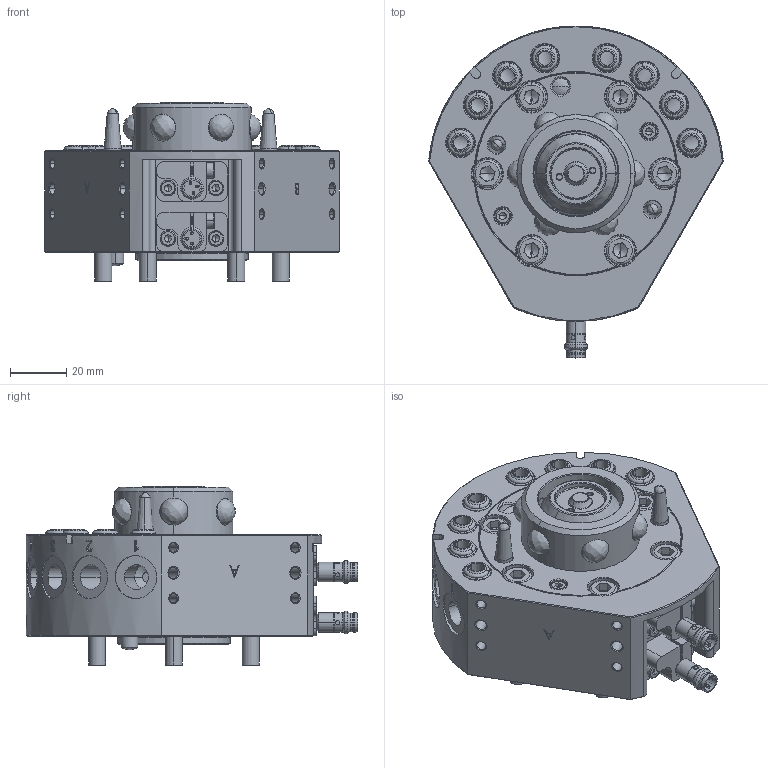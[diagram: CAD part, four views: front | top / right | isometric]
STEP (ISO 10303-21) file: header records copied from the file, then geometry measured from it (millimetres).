
FILE_DESCRIPTION (( 'STEP AP203' ), '1' );
FILE_NAME ('QCA-35R-S.STEP', '2025-02-27T01:20:07', ( 'Windows User' ), ( 'P R C' ), 'SwSTEP 2.0', 'SolidWorks 2018', '' );
FILE_SCHEMA (( 'CONFIG_CONTROL_DESIGN' ));
Length unit declared in the file: millimetre
Products named in the file (1): QCA-35R-S
Bounding box: 104.62 x 117.9 x 63.8 mm (x, y, z)
Volume: 295855.7 mm3; surface area: 50710.8 mm2
Topology: 7 solids, 36 shells, 2013 faces, 4883 edges, 2978 vertices
Faces by surface type: cone 689, cylinder 674, plane 471, bspline 167, torus 12
Entity records: 72743 total; most frequent: CARTESIAN_POINT 25571, DIRECTION 10380, ORIENTED_EDGE 9566, EDGE_CURVE 4783, AXIS2_PLACEMENT_3D 4168, VERTEX_POINT 2978, CIRCLE 2321, EDGE_LOOP 2215
